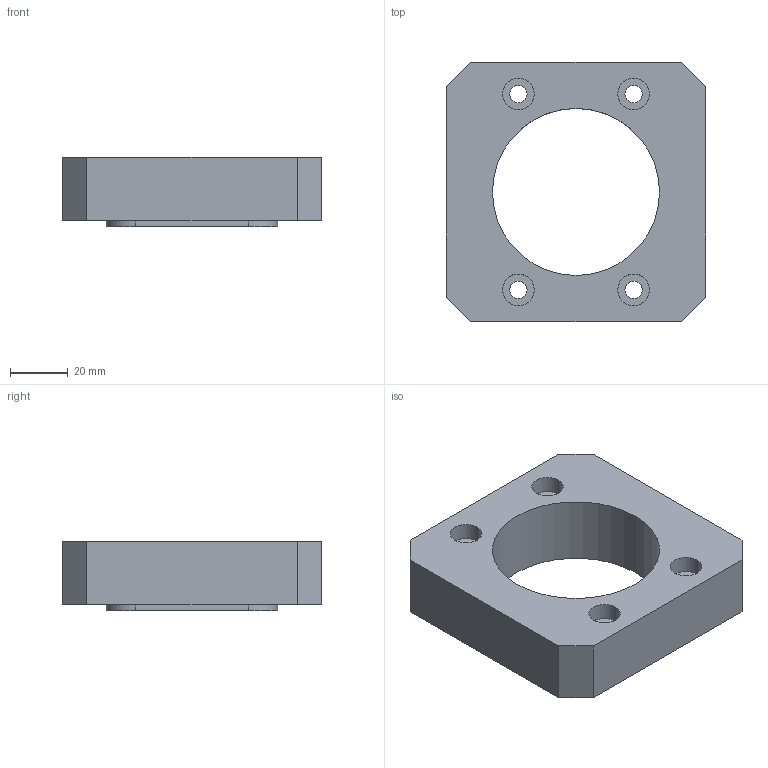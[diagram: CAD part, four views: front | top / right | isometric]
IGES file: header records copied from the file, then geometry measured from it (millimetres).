
Start section:  PTC IGES file: PI80.igs
Global section: file name: PI80.igs; native system: Pro/ENGINEER by Parametric Technology Corporation; preprocessor: 2009440; author: Owner; organization: Unknown; date: 20170720.101828; units: millimetre
Bounding box: 90 x 90 x 24 mm (x, y, z)
Surface area: 24733 mm2 (no closed solid volume)
Topology: 0 solids, 0 shells, 41 faces, 204 edges, 204 vertices
Faces by surface type: revolution 22, bspline 19
